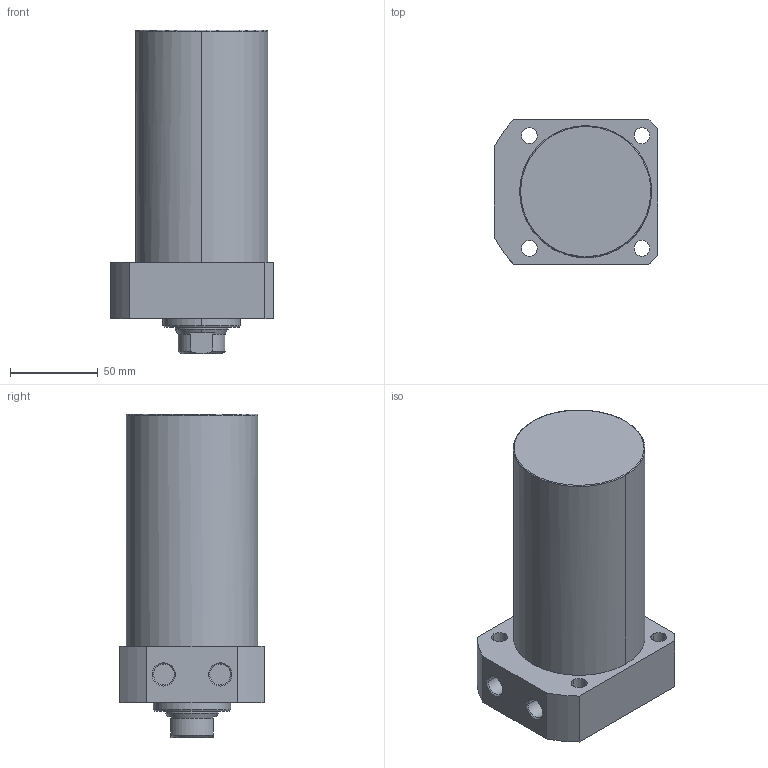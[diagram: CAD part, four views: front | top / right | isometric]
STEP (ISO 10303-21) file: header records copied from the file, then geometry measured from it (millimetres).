
FILE_DESCRIPTION((' '),'2;1');
FILE_NAME( 'TLLR-075CA-095.STEP.stp', '2025-10-24T16:35:05', (' '), ('--- Datakit www.datakit.com---'), ' Datakit CrossCadWare V2024.1 Dec 21 2023', 'Mastercam 2025', ' ');
FILE_SCHEMA(('AUTOMOTIVE_DESIGN { 1 0 10303 214 1 1 1 1 }'));
Length unit declared in the file: millimetre
Products named in the file (1): TLLR-075CA-095
Bounding box: 93 x 82 x 184 mm (x, y, z)
Volume: 818258.4 mm3; surface area: 64763 mm2
Topology: 1 solids, 1 shells, 63 faces, 177 edges, 122 vertices
Faces by surface type: cylinder 28, plane 19, cone 14, torus 2
Entity records: 2168 total; most frequent: CARTESIAN_POINT 405, DIRECTION 400, ORIENTED_EDGE 350, EDGE_CURVE 175, AXIS2_PLACEMENT_3D 169, VERTEX_POINT 122, CIRCLE 105, EDGE_LOOP 79
